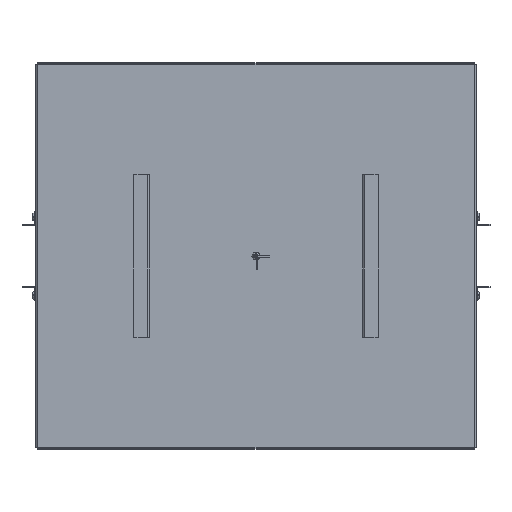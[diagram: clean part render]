
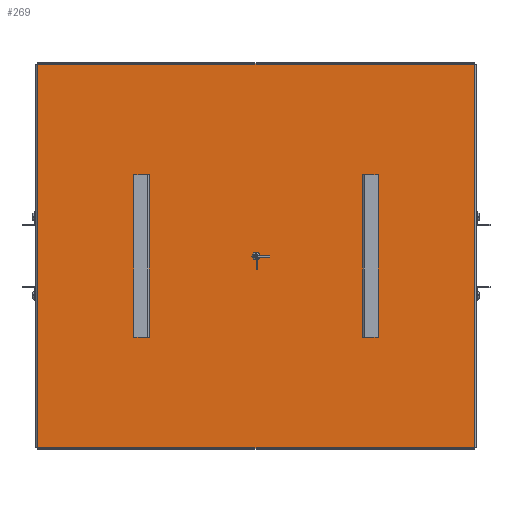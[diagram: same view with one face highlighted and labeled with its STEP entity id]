
A CAD part, top view. The second image highlights one B-rep face of the part: STEP entity #269.
In plain terms, the highlighted planar face has unit normal (0, 0, 1).
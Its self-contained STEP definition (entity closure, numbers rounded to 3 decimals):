
#269 = ADVANCED_FACE( '', ( #654 ), #655, .T. );
#654 = FACE_OUTER_BOUND( '', #1209, .T. );
#655 = PLANE( '', #1210 );
#1209 = EDGE_LOOP( '', ( #1951, #1952, #1953, #1954 ) );
#1210 = AXIS2_PLACEMENT_3D( '', #1955, #1956, #1957 );
#1951 = ORIENTED_EDGE( '', *, *, #3335, .F. );
#1952 = ORIENTED_EDGE( '', *, *, #3336, .T. );
#1953 = ORIENTED_EDGE( '', *, *, #3337, .F. );
#1954 = ORIENTED_EDGE( '', *, *, #3338, .T. );
#1955 = CARTESIAN_POINT( '', ( -272.453, -241.3, 0. ) );
#1956 = DIRECTION( '', ( 0., 0., 1. ) );
#1957 = DIRECTION( '', ( 1., 0., 0. ) );
#3335 = EDGE_CURVE( '', #4073, #4074, #4075, .T. );
#3336 = EDGE_CURVE( '', #4073, #4076, #4077, .T. );
#3337 = EDGE_CURVE( '', #4078, #4076, #4079, .T. );
#3338 = EDGE_CURVE( '', #4078, #4074, #4080, .T. );
#4073 = VERTEX_POINT( '', #5201 );
#4074 = VERTEX_POINT( '', #5202 );
#4075 = LINE( '', #5203, #5204 );
#4076 = VERTEX_POINT( '', #5205 );
#4077 = LINE( '', #5206, #5207 );
#4078 = VERTEX_POINT( '', #5208 );
#4079 = LINE( '', #5209, #5210 );
#4080 = LINE( '', #5211, #5212 );
#5201 = CARTESIAN_POINT( '', ( -272.453, 239.116, 0. ) );
#5202 = CARTESIAN_POINT( '', ( 272.453, 239.116, 0. ) );
#5203 = CARTESIAN_POINT( '', ( -272.453, 239.116, 0. ) );
#5204 = VECTOR( '', #6208, 1000. );
#5205 = CARTESIAN_POINT( '', ( -272.453, -239.116, 0. ) );
#5206 = CARTESIAN_POINT( '', ( -272.453, 241.3, 0. ) );
#5207 = VECTOR( '', #6209, 1000. );
#5208 = CARTESIAN_POINT( '', ( 272.453, -239.116, 0. ) );
#5209 = CARTESIAN_POINT( '', ( 272.453, -239.116, 0. ) );
#5210 = VECTOR( '', #6210, 1000. );
#5211 = CARTESIAN_POINT( '', ( 272.453, -241.3, 0. ) );
#5212 = VECTOR( '', #6211, 1000. );
#6208 = DIRECTION( '', ( 1., 0., 0. ) );
#6209 = DIRECTION( '', ( 0., -1., 0. ) );
#6210 = DIRECTION( '', ( -1., 0., 0. ) );
#6211 = DIRECTION( '', ( 0., 1., 0. ) );
